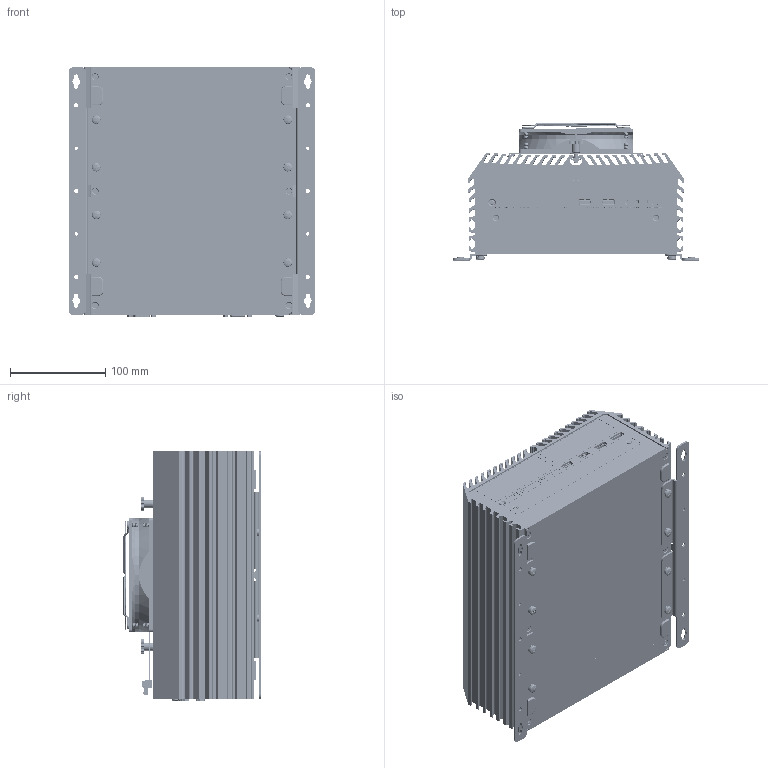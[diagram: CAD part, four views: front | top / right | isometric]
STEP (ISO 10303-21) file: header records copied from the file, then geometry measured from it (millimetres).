
FILE_DESCRIPTION (( 'STEP AP214' ), '1' );
FILE_NAME ('1-DS-1501+Wall Mount+12” 風扇-外觀-20250807.STEP', '2026-07-27T05:21:10', ( '' ), ( '' ), 'SwSTEP 2.0', 'SolidWorks 2014', '' );
FILE_SCHEMA (( 'AUTOMOTIVE_DESIGN' ));
Length unit declared in the file: millimetre
Products named in the file (59): MANIFOLD_SOLID_BREP_908_1_1; DS-1501-Riser Card Bracket asm-20240216; PWR_BTN_TC003; 23-D0341500040_FAN2_ECH350R_3P_1LAYER; L-Bracket(M0-LBKT2300017); RITILA_ASM_1_ASM_4_ASM; VOLUMENK_S_VRPER1-4576_2_2; 1-DS-1501+Wall Mount+12” 風扇-外觀-20250807; USB3.1-2+RJ45-JFM48U1B-BA04(2.5G)(23-D0572300320); M5-SP_3; DS-1300-Front Bezel-symbol_panel(M0-ZZZZ5C30009)-20200923; DS-1200-Bottom Cover asm-20200406; AUTIO_2IN1; 銅柱-4-4OUNC-4.8_11.8H(M3-COSD6L00000)東莞?輝; DS-1500-Front Open Bezel(M1-407150084100); MANIFOLD_SOLID_BREP_905_1_1; 23-D0351500040_CN2_MINIDIN_USBX2; NUT-M5; DS-1501-Riser Card Bracket(M1-107150153400)-20240216; Screw-耐落-沙拉-90-星型-T10-黑-M3x8(M3-N103082260); DS-1301-Front Bezel(M1-407130124100)-20200311; DS-MEC KIT-Universal Bracket(M1-ZZZZ3613001); MANIFOLD_SOLID_BREP_906_1_1; DS-1500-Main Board asm-20250203; MANIFOLD_SOLID_BREP_903_1_1; DS-Wall Mount Bracket(M1-ZZZZ3611004); MANIFOLD_SOLID_BREP_907_1_1; 12-PLATE_9; Top Cover(M1-407120106300)-DS-1201-金金-20181015; Screw-丸頭-十字-外齒-M5x8(M3-SCREAB00002); 外接電源B-4腳; 23-D0341500030_DC_IN1_5EHDRM-03P_8; Screw-沙拉-120-星型-T10+E型扣-黑-M3x13(M3-1103132270+M3-402004050415); USB3.0-2L+RJ45-JFM38U1B-B313-4F(23-D0202300320); MANIFOLD_SOLID_BREP_904_1_1; DS-1101-Riser Card Bracket-A(M1-107110153400); Screw-耐落-沙拉-120-星型-T10-黑-M3x5(M3-N103052230); 23-D0351500040_CN1_ECHB350R-04P; 120_X_120_X_25_DC_FAN_ASM_3_ASM_ASM; DS-1200-Bottom Cover(M1-407120011200)-20180821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
Assembly tree (98 placements, depth 4):
  1-DS-1501+Wall Mount+12” 風扇-外觀-20250807
    DS-1500-PCBA-ASM-20250203
      DS-1500-Main Board asm-20250203
        23-D0351500040_CN1_ECHB350R-04P
        AUTIO_2IN1
        D20H1P1PA1X2A111N2 (3D)
        23-D0351500040_CN2_MINIDIN_USBX2
        D330H1SL72211DD0
        23-D0242300200_DP1_DISPLAYPORT  x2
        23-D0341500040_FAN2_ECH350R_3P_1LAYER
        23-D0341500030_DC_IN1_5EHDRM-03P_8
        PWR_BTN_TC003
        USB-3.0-SMT-T.H(122-0921NX0504)  x2
        WHDM-19FLBSDR
        USB3.0-2L+RJ45-JFM38U1B-B313-4F(23-D0202300320)
        USB3.1-2+RJ45-JFM48U1B-BA04(2.5G)(23-D0572300320)
    DS-1301-Front Bezel(M1-407130124100)-20200311
    DS-1300-Front Bezel-symbol_panel(M0-ZZZZ5C30009)-20200923
    DS-1500-Front Open Bezel(M1-407150084100)
    DS-1200-Front Bezel Matching Bezel(M1-407120084100)  x2
    DS-1301-Rear Bezel(M1-407130134100)-20200311
    DS-MEC KIT-Universal Bracket(M1-ZZZZ3613001)  x2
    DS-1201-Top Cover asm-金金-20180402
      Top Cover(M1-407120106300)-DS-1201-金金-20181015
    DS-1200-Bottom Cover asm-20200406
      DS-1200-Bottom Cover(M1-407120011200)-20180821
      Rubber Foot Shore(M4-RUFT0100001)  x4
    Screw-耐落-沙拉-120-星型-T10-黑-M3x5(M3-N103052230)  x5
    Screw-耐落-沙拉-90-星型-T10-黑-M3x8(M3-N103082260)  x6
    Screw-沙拉-120-星型-T10+E型扣-黑-M3x13(M3-1103132270+M3-402004050415)  x2
    Screw-丸頭-十字-外齒-M5x8(M3-SCREAB00002)
    Hole Plugs(M4-RUBR0100004)-M06V0  x2
    DS-Wall Mount Bracket(M1-ZZZZ3611004)  x2
    Screw-丸頭-十字-耐落-SW-M5x6(M3-SCREAB00001)  x8
    銅柱-4-4OUNC-4.8_11.8H(M3-COSD6L00000)東莞?輝  x6
    DS-1501-Riser Card Bracket asm-20240216
      DS-1501-Riser Card Bracket(M1-107150153400)-20240216
        DS-1101-Riser Card Bracket-A(M1-107110153400)
      L-Bracket(M0-LBKT2300017)
    12_ASM_23_ASM
      12-PLATE_9
      M5-SP_3  x2
      120_X_120_X_25_DC_FAN_ASM_3_ASM_ASM
        ROTOR_120MM_FAN_2_2
        VOLUMENK_S_VRPER1-4576_2_2
      NUT-M5  x2
      RUUVI_1_1  x8
      RITILA_ASM_1_ASM_4_ASM
        MANIFOLD_SOLID_BREP_899_1_1
        MANIFOLD_SOLID_BREP_900_1_1
        MANIFOLD_SOLID_BREP_901_1_1
        MANIFOLD_SOLID_BREP_902_1_1
        MANIFOLD_SOLID_BREP_903_1_1
        MANIFOLD_SOLID_BREP_904_1_1
        MANIFOLD_SOLID_BREP_905_1_1
        MANIFOLD_SOLID_BREP_906_1_1
        MANIFOLD_SOLID_BREP_907_1_1
        MANIFOLD_SOLID_BREP_908_1_1
      外接電源B-4腳
Bounding box: 259 x 143.95 x 262.9 mm (x, y, z)
Volume: 1480086.4 mm3; surface area: 876297.2 mm2
Topology: 114 solids, 314 shells, 23988 faces, 66349 edges, 42878 vertices
Faces by surface type: plane 14554, cylinder 6624, bspline 2383, cone 335, sphere 54, torus 38
Entity records: 831314 total; most frequent: CARTESIAN_POINT 229907, ORIENTED_EDGE 108352, DIRECTION 87235, EDGE_CURVE 54384, VECTOR 36613, LINE 36613, VERTEX_POINT 35229, AXIS2_PLACEMENT_3D 25311
